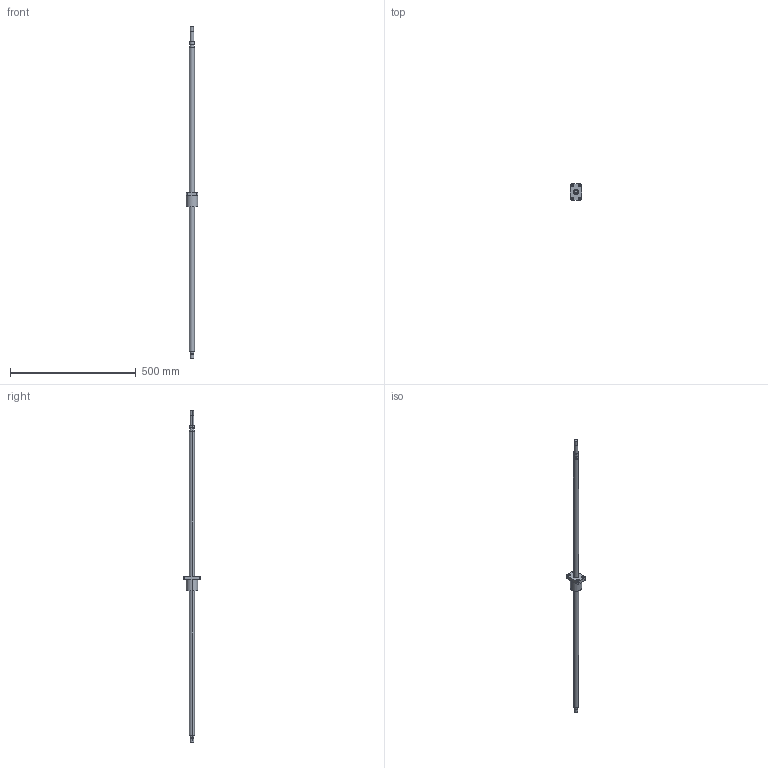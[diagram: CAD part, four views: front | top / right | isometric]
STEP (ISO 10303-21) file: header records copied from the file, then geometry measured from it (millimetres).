
FILE_DESCRIPTION((''),'2;1');
FILE_NAME('R20-20K2-FSC-1210-1320','2008-04-03T',('wcwu'),(''),'PRO/ENGINEER BY PARAMETRIC TECHNOLOGY CORPORATION, 2005070','PRO/ENGINEER BY PARAMETRIC TECHNOLOGY CORPORATION, 2005070','');
FILE_SCHEMA(('CONFIG_CONTROL_DESIGN'));
Length unit declared in the file: millimetre
Products named in the file (1): R20-20K2-FSC-1210-1320
Bounding box: 46 x 66 x 1320 mm (x, y, z)
Volume: 491118 mm3; surface area: 94160.7 mm2
Topology: 1 solids, 1 shells, 65 faces, 146 edges, 96 vertices
Faces by surface type: cylinder 40, plane 25
Entity records: 1906 total; most frequent: DIRECTION 360, CARTESIAN_POINT 307, ORIENTED_EDGE 292, AXIS2_PLACEMENT_3D 149, EDGE_CURVE 146, VERTEX_POINT 96, EDGE_LOOP 86, CIRCLE 84
